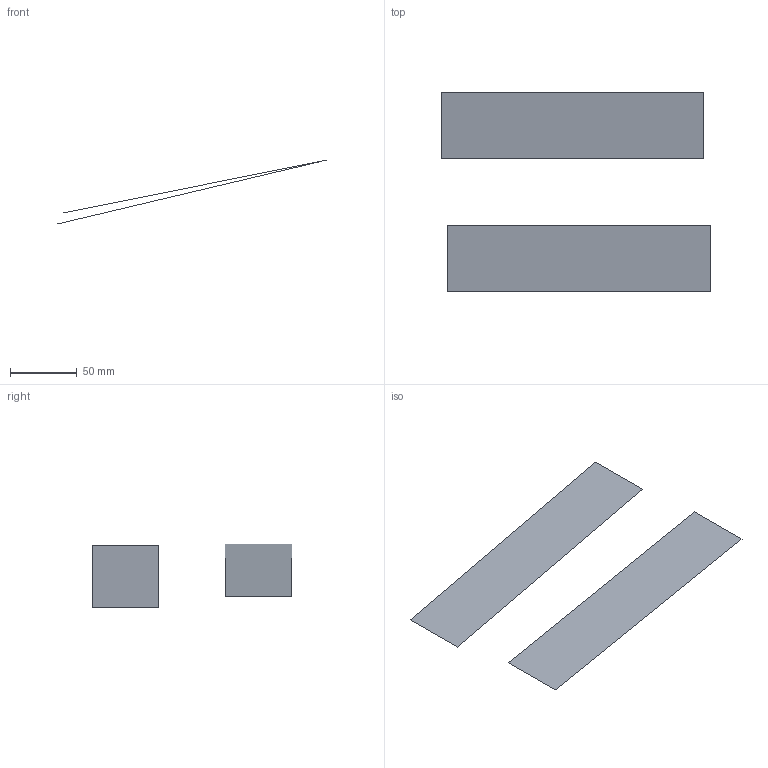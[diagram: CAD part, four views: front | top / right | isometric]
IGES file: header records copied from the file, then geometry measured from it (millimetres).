
Start section: START RECORD GO HERE
Global section: file name: FLAECHEN_NORMALEN; native system: IBM CATIA IGES - CATIA SOLUTIONS V4RELEASE 2.2 REFRESH 01; preprocessor: CATIA SOLUTIONS V4RELEASE 2.2 REFRESH 01; organization: DASSAULT SYSTEMES; date: 011009.095354; units: millimetre
Bounding box: 202.71 x 150 x 48.03 mm (x, y, z)
Topology: 0 solids, 0 shells, 4 faces, 17 edges, 21 vertices
Faces by surface type: plane 2, bspline 2
